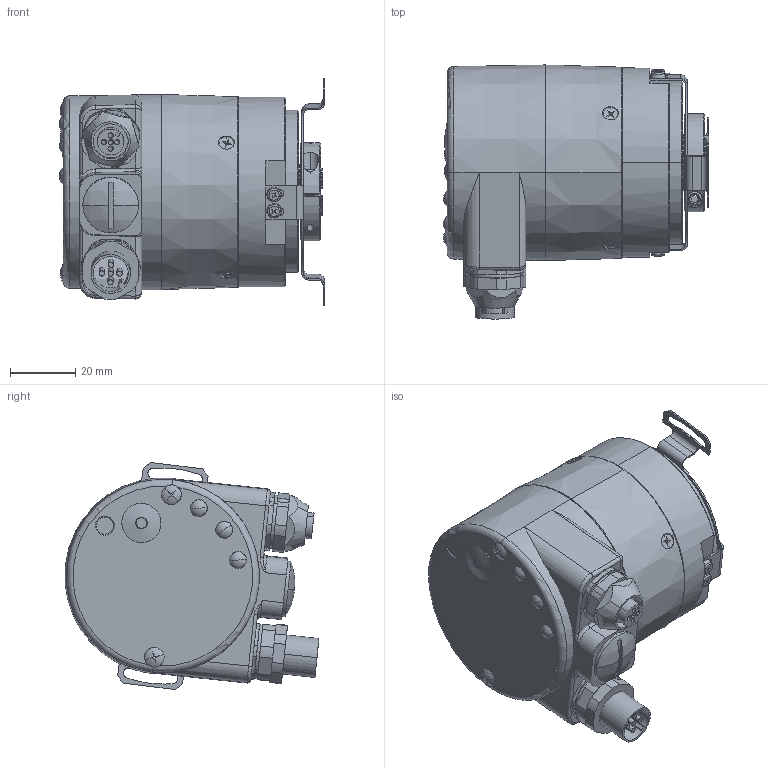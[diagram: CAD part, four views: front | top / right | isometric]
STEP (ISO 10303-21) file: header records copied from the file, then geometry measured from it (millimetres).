
FILE_DESCRIPTION (( 'STEP AP214' ), '1' );
FILE_NAME ('5878.5422.XXXX.STEP', '2008-06-04T06:25:39', ( 'admin' ), ( 'Fritz Kübler GmbH' ), 'SwSTEP 2.0', 'SolidWorks 2007', '' );
FILE_SCHEMA (( 'AUTOMOTIVE_DESIGN' ));
Length unit declared in the file: millimetre
Products named in the file (1): 5878.5422.XXXX
Bounding box: 81.17 x 77.69 x 69.44 mm (x, y, z)
Surface area: 32498.2 mm2 (no closed solid volume)
Topology: 0 solids, 30 shells, 583 faces, 1597 edges, 1033 vertices
Faces by surface type: plane 277, cylinder 202, cone 58, torus 24, sphere 13, bspline 9
Entity records: 25729 total; most frequent: CARTESIAN_POINT 4378, DIRECTION 3260, ORIENTED_EDGE 2891, EDGE_CURVE 1592, AXIS2_PLACEMENT_3D 1187, VERTEX_POINT 1033, LINE 886, VECTOR 886
